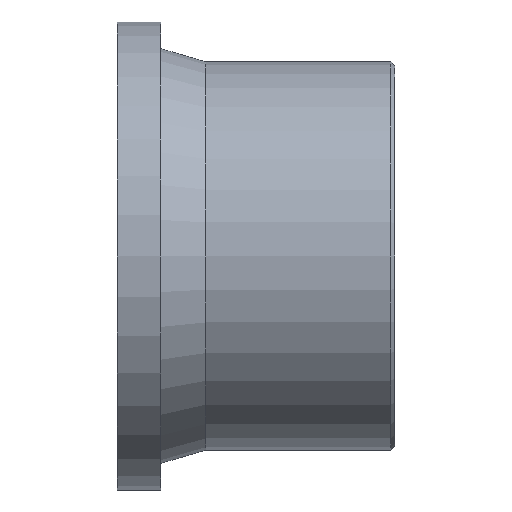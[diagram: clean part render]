
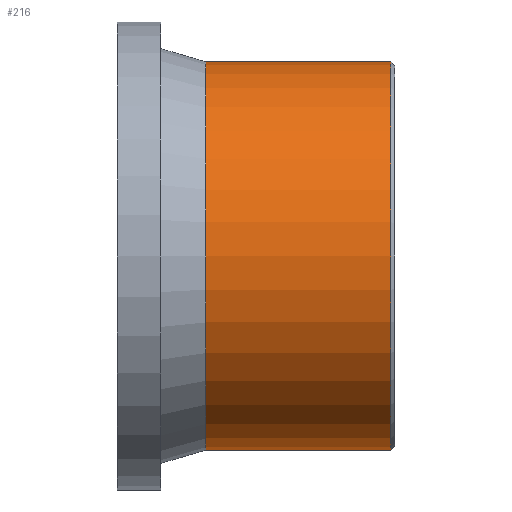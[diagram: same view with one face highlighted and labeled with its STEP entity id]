
A CAD part, front view. The second image highlights one B-rep face of the part: STEP entity #216.
In plain terms, the highlighted cylindrical face has radius 200 mm (diameter 400 mm), a full revolution.
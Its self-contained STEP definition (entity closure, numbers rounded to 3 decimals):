
#24=CYLINDRICAL_SURFACE('',#240,200.);
#34=FACE_BOUND('',#76,.T.);
#54=FACE_OUTER_BOUND('',#75,.T.);
#75=EDGE_LOOP('',(#175));
#76=EDGE_LOOP('',(#176));
#113=CIRCLE('',#238,200.);
#115=CIRCLE('',#241,200.);
#133=VERTEX_POINT('',#361);
#135=VERTEX_POINT('',#366);
#153=EDGE_CURVE('',#133,#133,#113,.T.);
#155=EDGE_CURVE('',#135,#135,#115,.T.);
#175=ORIENTED_EDGE('',*,*,#155,.T.);
#176=ORIENTED_EDGE('',*,*,#153,.F.);
#216=ADVANCED_FACE('',(#54,#34),#24,.T.);
#238=AXIS2_PLACEMENT_3D('',#362,#281,#282);
#240=AXIS2_PLACEMENT_3D('',#365,#285,#286);
#241=AXIS2_PLACEMENT_3D('',#367,#287,#288);
#281=DIRECTION('center_axis',(1.,0.,0.));
#282=DIRECTION('ref_axis',(0.,-1.,0.));
#285=DIRECTION('center_axis',(1.,0.,0.));
#286=DIRECTION('ref_axis',(0.,1.,0.));
#287=DIRECTION('center_axis',(1.,0.,0.));
#288=DIRECTION('ref_axis',(0.,0.,-1.));
#361=CARTESIAN_POINT('',(-4.,200.,0.));
#362=CARTESIAN_POINT('Origin',(-4.,0.,0.));
#365=CARTESIAN_POINT('Origin',(-97.5,0.,0.));
#366=CARTESIAN_POINT('',(-195.,200.,0.));
#367=CARTESIAN_POINT('Origin',(-195.,0.,0.));
